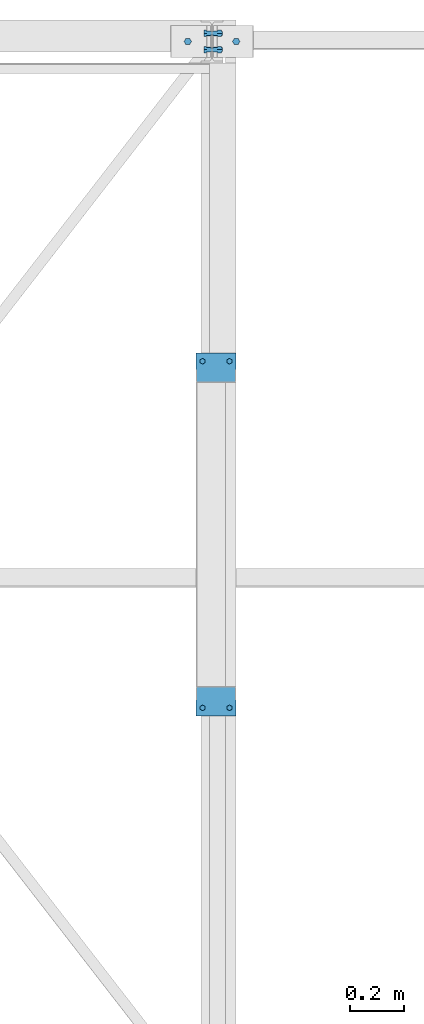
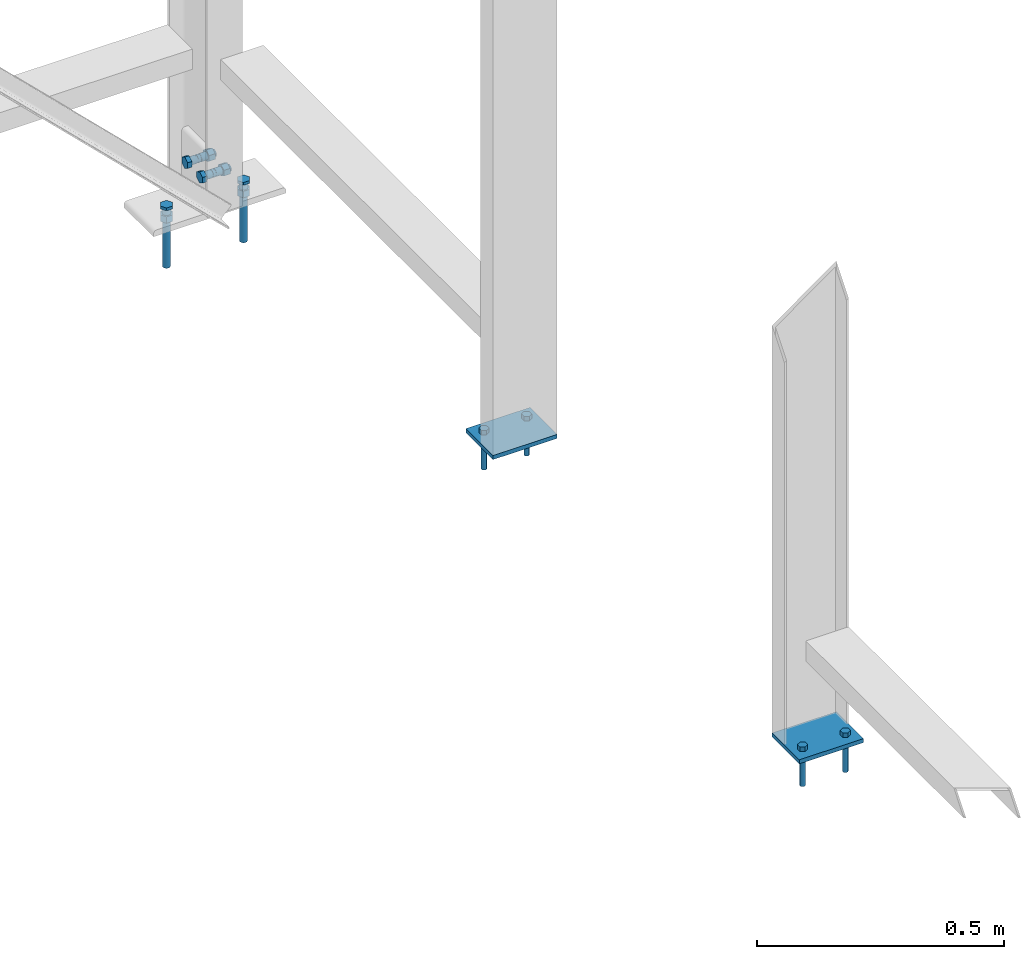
# One storey, part 93 of 123: 5 mechanical fasteners, 2 discrete accessories, 4 elements without a shape of their own.
"""IFC2X3 building model written with IfcOpenShell, lengths in millimetres."""

from ifc_helpers import new_model, si_unit, frame, origin_with_axes, origin_2d_with_axis, place, context, subcontext, project, spatial, polyline, circle, outline, extrude, source, transform, mapped, material, type_object, element, aggregate, save


model = new_model("IFC2X3")

# Units and contexts
model_context = context("Model", 3, precision=1e-05, world=origin_with_axes())
body_context = subcontext(model_context, "Body", "Model", "MODEL_VIEW")
ifc_project = project(units=[si_unit("LENGTHUNIT", "METRE", prefix="MILLI"), si_unit("AREAUNIT", "SQUARE_METRE"), si_unit("VOLUMEUNIT", "CUBIC_METRE"), si_unit("MASSUNIT", "GRAM", prefix="KILO"), si_unit("TIMEUNIT", "SECOND"), si_unit("PLANEANGLEUNIT", "RADIAN"), si_unit("SOLIDANGLEUNIT", "STERADIAN"), si_unit("THERMODYNAMICTEMPERATUREUNIT", "DEGREE_CELSIUS"), si_unit("LUMINOUSINTENSITYUNIT", "LUMEN")], contexts=[model_context])

# Site, building, storey
site_placement = place(None, origin_with_axes())
site = spatial("IfcSite", under=ifc_project, at=site_placement, Name="Undefined", CompositionType="ELEMENT")
building_placement = place(site_placement, origin_with_axes())
building = spatial("IfcBuilding", under=site, at=building_placement, Name="Undefined", CompositionType="ELEMENT")
storey_placement = place(building_placement, origin_with_axes())
storey = spatial("IfcBuildingStorey", under=building, at=storey_placement, Name="Undefined", CompositionType="ELEMENT", Elevation=0.0)

# Assembly, discrete accessory
assembly_1_placement = place(storey_placement, origin_with_axes())
assembly_1 = element("IfcElementAssembly", 1, at=assembly_1_placement, inside=storey, Name="Steel Assembly", AssemblyPlace="NOTDEFINED", PredefinedType="RIGID_FRAME")
ifc_material_1 = material(Name="STEEL/S235-E24")
discrete_accessory_type_1 = type_object("IfcDiscreteAccessoryType", Name="PLATINE")
discrete_accessory_1_placement = place(assembly_1_placement, frame((32044.9999688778, 27970.0000146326, -95.0), z_axis=(0.0, 0.0, -1.0), x_axis=(0.0, 1.0, 0.0)))
discrete_accessory_1 = element("IfcDiscreteAccessory", 2, at=discrete_accessory_1_placement, type_object=discrete_accessory_type_1, material=ifc_material_1, Name="PLATINE", ObjectType="PL10*150", context=body_context, shape_type="SweptSolid", body=[
    extrude(outline(polyline([(0.0, -75.0), (0.0, 75.0), (110.0, 75.0), (110.0, -75.0), (0.0, -75.0)])), frame((0.0, 0.0, -5.0), z_axis=(0.0, 0.0, 1.0), x_axis=(1.0, 0.0, 0.0)), (0.0, 0.0, 1.0), 10.0),
])

assembly_2_placement = place(storey_placement, origin_with_axes())
assembly_2 = element("IfcElementAssembly", 3, at=assembly_2_placement, inside=storey, Name="Steel Assembly", AssemblyPlace="NOTDEFINED", PredefinedType="RIGID_FRAME")
discrete_accessory_2_placement = place(assembly_2_placement, frame((32044.9999688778, 26840.0000217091, -95.0), z_axis=(0.0, 0.0, 1.0), x_axis=(0.0, -1.0, 0.0)))
discrete_accessory_2 = element("IfcDiscreteAccessory", 4, at=discrete_accessory_2_placement, type_object=discrete_accessory_type_1, material=ifc_material_1, Name="PLATINE", ObjectType="PL10*150", context=body_context, shape_type="SweptSolid", body=[
    extrude(outline(polyline([(110.0, -75.0), (0.0, -75.0), (0.0, 75.0), (110.0, 75.0), (110.0, -75.0)])), frame((0.0, 0.0, -5.0), z_axis=(0.0, 0.0, 1.0), x_axis=(1.0, 0.0, 0.0)), (0.0, 0.0, 1.0), 10.0),
])

# Mechanical fastener
ifc_material_2 = material(Name="INOX_A4")
discrete_accessory_type_2 = type_object("IfcDiscreteAccessoryType", Name="Bolt assembly")
shared_shape_1 = source(origin_with_axes(), body_context, "Body", "SweptSolid", [
    extrude(circle(Radius=7.0, at=origin_2d_with_axis()), frame((0.0, -10.0, 0.0), z_axis=(0.0, 1.0, 0.0), x_axis=(1.0, 0.0, 0.0)), (0.0, 0.0, 1.0), 10.1),
    extrude(outline(polyline([(10.39230484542, 0.0), (5.19615242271, 9.00000000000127), (-5.19615242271, 9.00000000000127), (-10.39230484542, 0.0), (-5.19615242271, -9.00000000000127), (5.19615242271, -9.00000000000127), (10.39230484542, 0.0)])), frame((0.0, -20.8000001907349, 0.0), z_axis=(0.0, 1.0, 0.0), x_axis=(1.0, 0.0, 0.0)), (0.0, 0.0, 1.0), 10.8),
    extrude(circle(Radius=6.0, at=origin_2d_with_axis()), frame((0.0, -10.0, 0.0), z_axis=(0.0, 1.0, 0.0), x_axis=(1.0, 0.0, 0.0)), (0.0, 0.0, 1.0), 89.2),
    extrude(outline(polyline([(10.96965511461, 0.0), (5.484827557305, 9.50000000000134), (-5.484827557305, 9.50000000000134), (-10.96965511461, 0.0), (-5.484827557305, -9.50000000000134), (5.484827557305, -9.50000000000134), (10.96965511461, 0.0)])), frame((0.0, 0.0, 0.0), z_axis=(0.0, 1.0, 0.0), x_axis=(1.0, 0.0, 0.0)), (0.0, 0.0, 1.0), 12.0),
])
mechanical_fastener_1_placement = place(assembly_1_placement, frame((32044.9999688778, 28050.0000146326, -100.0), z_axis=(1.0, 0.0, 0.0), x_axis=(0.0, -1.0, 0.0)))
mechanical_fastener_1 = element("IfcMechanicalFastener", 5, at=mechanical_fastener_1_placement, type_object=discrete_accessory_type_2, material=ifc_material_2, Name="Bolt assembly", NominalDiameter=12.0, NominalLength=89.1999969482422, context=body_context, shape_type="MappedRepresentation", body=[
    mapped(shared_shape_1, transform((0.0, 0.0, 50.0))),
    mapped(shared_shape_1, transform((0.0, 0.0, -50.0))),
])

aggregate(assembly_1, [mechanical_fastener_1, discrete_accessory_1])

mechanical_fastener_2_placement = place(assembly_2_placement, frame((32044.9999688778, 26760.0000217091, -100.0), z_axis=(-1.0, 0.0, 0.0), x_axis=(0.0, 1.0, 0.0)))
mechanical_fastener_2 = element("IfcMechanicalFastener", 6, at=mechanical_fastener_2_placement, type_object=discrete_accessory_type_2, material=ifc_material_2, Name="Bolt assembly", NominalDiameter=12.0, NominalLength=89.1999969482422, context=body_context, shape_type="MappedRepresentation", body=[
    mapped(shared_shape_1, transform((0.0, 0.0, -50.0))),
    mapped(shared_shape_1, transform((0.0, 0.0, 50.0))),
])

aggregate(assembly_2, [mechanical_fastener_2, discrete_accessory_2])

# Assembly, mechanical fastener
assembly_3_placement = place(storey_placement, origin_with_axes())
assembly_3 = element("IfcElementAssembly", 7, at=assembly_3_placement, inside=storey, Name="Steel Assembly", AssemblyPlace="NOTDEFINED", PredefinedType="RIGID_FRAME")
shared_shape_2 = source(origin_with_axes(), body_context, "Body", "SweptSolid", [
    extrude(circle(Radius=9.0, at=origin_2d_with_axis()), frame((0.0, -15.0, 0.0), z_axis=(0.0, 1.0, 0.0), x_axis=(1.0, 0.0, 0.0)), (0.0, 0.0, 1.0), 15.1),
    extrude(outline(polyline([(13.85640646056, 0.0), (6.92820323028, 12.0000000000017), (-6.92820323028, 12.0000000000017), (-13.85640646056, 0.0), (-6.92820323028, -12.0000000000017), (6.92820323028, -12.0000000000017), (13.85640646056, 0.0)])), frame((0.0, -21.8000001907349, 0.0), z_axis=(0.0, 1.0, 0.0), x_axis=(1.0, 0.0, 0.0)), (0.0, 0.0, 1.0), 6.8),
    extrude(circle(Radius=8.0, at=origin_2d_with_axis()), frame((0.0, -15.0, 0.0), z_axis=(0.0, 1.0, 0.0), x_axis=(1.0, 0.0, 0.0)), (0.0, 0.0, 1.0), 146.2),
    extrude(outline(polyline([(13.85640646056, 0.0), (6.92820323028, 12.0000000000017), (-6.92820323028, 12.0000000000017), (-13.85640646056, 0.0), (-6.92820323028, -12.0000000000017), (6.92820323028, -12.0000000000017), (13.85640646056, 0.0)])), frame((0.0, 0.0, 0.0), z_axis=(0.0, 1.0, 0.0), x_axis=(1.0, 0.0, 0.0)), (0.0, 0.0, 1.0), 16.0),
])
mechanical_fastener_3_placement = place(assembly_3_placement, frame((31940.0000297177, 29239.9999987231, -250.0), z_axis=(0.0, 1.0, 0.0), x_axis=(1.0, 0.0, 0.0)))
mechanical_fastener_3 = element("IfcMechanicalFastener", 8, at=mechanical_fastener_3_placement, type_object=discrete_accessory_type_2, material=ifc_material_2, Name="Bolt assembly", NominalDiameter=16.0, NominalLength=146.199996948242, context=body_context, shape_type="MappedRepresentation", body=[
    mapped(shared_shape_2, transform((0.0, 0.0, 0.0))),
])

assembly_4_placement = place(storey_placement, origin_with_axes())
assembly_4 = element("IfcElementAssembly", 9, at=assembly_4_placement, inside=storey, Name="Steel Assembly", AssemblyPlace="NOTDEFINED", PredefinedType="RIGID_FRAME")
mechanical_fastener_4_placement = place(assembly_4_placement, frame((32119.999970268, 29239.9999987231, -250.0), z_axis=(0.0, -1.0, 0.0), x_axis=(-1.0, 0.0, 0.0)))
mechanical_fastener_4 = element("IfcMechanicalFastener", 10, at=mechanical_fastener_4_placement, type_object=discrete_accessory_type_2, material=ifc_material_2, Name="Bolt assembly", NominalDiameter=16.0, NominalLength=146.199996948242, context=body_context, shape_type="MappedRepresentation", body=[
    mapped(shared_shape_2, transform((0.0, 0.0, 0.0))),
])
aggregate(assembly_4, [mechanical_fastener_4])

# Mechanical fastener
ifc_material_3 = material(Name="8.8-G")
shared_shape_3 = source(origin_with_axes(), body_context, "Body", "SweptSolid", [
    extrude(circle(Radius=9.0, at=origin_2d_with_axis()), frame((0.0, -2.50006083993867, 0.0), z_axis=(0.0, 1.0, 0.0), x_axis=(1.0, 0.0, 0.0)), (0.0, 0.0, 1.0), 5.0),
    extrude(circle(Radius=9.0, at=origin_2d_with_axis()), frame((0.0, -19.9, 0.0), z_axis=(0.0, 1.0, 0.0), x_axis=(1.0, 0.0, 0.0)), (0.0, 0.0, 1.0), 15.0),
    extrude(circle(Radius=9.0, at=origin_2d_with_axis()), frame((0.0, 4.89994055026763, 0.0), z_axis=(0.0, 1.0, 0.0), x_axis=(1.0, 0.0, 0.0)), (0.0, 0.0, 1.0), 15.1),
    extrude(outline(polyline([(13.85640646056, 0.0), (6.92820323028, 12.0000000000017), (-6.92820323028, 12.0000000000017), (-13.85640646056, 0.0), (-6.92820323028, -12.0000000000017), (6.92820323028, -12.0000000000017), (13.85640646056, 0.0)])), frame((0.0, -30.0, 0.0), z_axis=(0.0, 1.0, 0.0), x_axis=(1.0, 0.0, 0.0)), (0.0, 0.0, 1.0), 10.0),
    extrude(circle(Radius=8.0, at=origin_2d_with_axis()), frame((0.0, -20.0, 0.0), z_axis=(0.0, 1.0, 0.0), x_axis=(1.0, 0.0, 0.0)), (0.0, 0.0, 1.0), 60.0),
    extrude(outline(polyline([(13.85640646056, 0.0), (6.92820323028, 12.0000000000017), (-6.92820323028, 12.0000000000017), (-13.85640646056, 0.0), (-6.92820323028, -12.0000000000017), (6.92820323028, -12.0000000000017), (13.85640646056, 0.0)])), frame((0.0, 19.9999405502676, 0.0), z_axis=(0.0, 1.0, 0.0), x_axis=(1.0, 0.0, 0.0)), (0.0, 0.0, 1.0), 14.8),
])
mechanical_fastener_5_placement = place(assembly_3_placement, frame((32030.0000297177, 29239.9999987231, -165.0), z_axis=(0.0, -1.0, 0.0), x_axis=(0.0, 0.0, -1.0)))
mechanical_fastener_5 = element("IfcMechanicalFastener", 11, at=mechanical_fastener_5_placement, type_object=discrete_accessory_type_2, material=ifc_material_3, Name="Bolt assembly", NominalDiameter=16.0, NominalLength=60.0, context=body_context, shape_type="MappedRepresentation", body=[
    mapped(shared_shape_3, transform((0.0, 0.0, 30.0))),
    mapped(shared_shape_3, transform((0.0, 0.0, -30.0))),
])

aggregate(assembly_3, [mechanical_fastener_3, mechanical_fastener_5])

save(model, "model.ifc")
